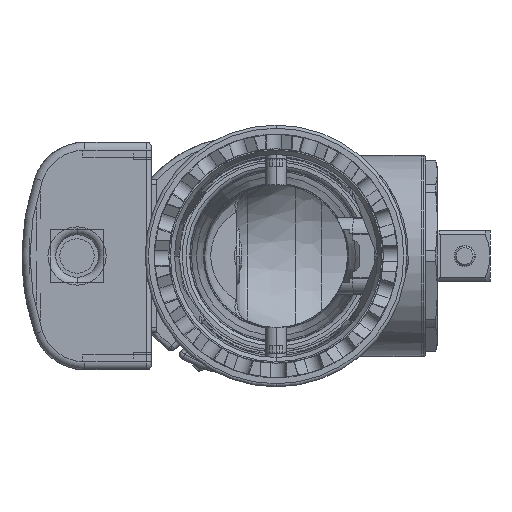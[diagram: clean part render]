
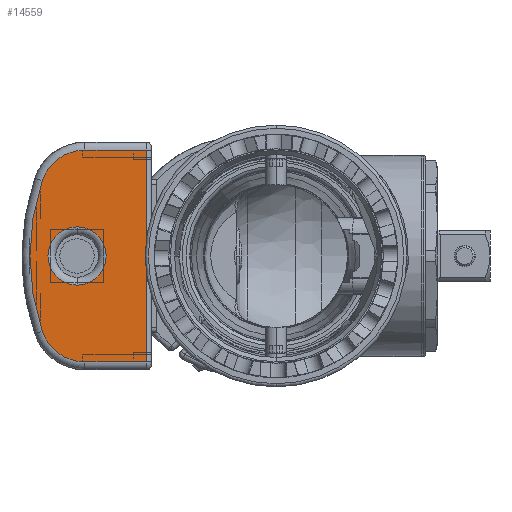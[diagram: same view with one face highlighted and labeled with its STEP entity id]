
A CAD part, left-side view. The second image highlights one B-rep face of the part: STEP entity #14559.
In plain terms, the highlighted planar face has unit normal (-1, 0, 0).
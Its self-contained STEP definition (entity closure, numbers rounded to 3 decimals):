
#14233 = VERTEX_POINT ( 'NONE', #53904 ) ;
#14332 = EDGE_CURVE ( 'NONE', #14334, #14233, #54259, .T. ) ;
#14334 = VERTEX_POINT ( 'NONE', #54377 ) ;
#14369 = VERTEX_POINT ( 'NONE', #54554 ) ;
#14378 = VERTEX_POINT ( 'NONE', #54523 ) ;
#14433 = EDGE_LOOP ( 'NONE', ( #14434, #14435 ) ) ;
#14434 = ORIENTED_EDGE ( 'NONE', *, *, #14332, .T. ) ;
#14435 = ORIENTED_EDGE ( 'NONE', *, *, #14558, .T. ) ;
#14436 = EDGE_LOOP ( 'NONE', ( #14534, #14535, #14538, #14540, #14541, #14542 ) ) ;
#14444 = VERTEX_POINT ( 'NONE', #55066 ) ;
#14447 = EDGE_CURVE ( 'NONE', #14478, #14444, #55059, .T. ) ;
#14455 = EDGE_CURVE ( 'NONE', #14487, #14369, #55123, .T. ) ;
#14478 = VERTEX_POINT ( 'NONE', #55155 ) ;
#14482 = EDGE_CURVE ( 'NONE', #14369, #14478, #55150, .T. ) ;
#14487 = VERTEX_POINT ( 'NONE', #55145 ) ;
#14489 = EDGE_CURVE ( 'NONE', #14378, #14487, #55252, .T. ) ;
#14534 = ORIENTED_EDGE ( 'NONE', *, *, #14447, .T. ) ;
#14535 = ORIENTED_EDGE ( 'NONE', *, *, #14536, .T. ) ;
#14536 = EDGE_CURVE ( 'NONE', #14444, #14537, #55328, .T. ) ;
#14537 = VERTEX_POINT ( 'NONE', #55314 ) ;
#14538 = ORIENTED_EDGE ( 'NONE', *, *, #14539, .T. ) ;
#14539 = EDGE_CURVE ( 'NONE', #14537, #14378, #55402, .T. ) ;
#14540 = ORIENTED_EDGE ( 'NONE', *, *, #14489, .T. ) ;
#14541 = ORIENTED_EDGE ( 'NONE', *, *, #14455, .T. ) ;
#14542 = ORIENTED_EDGE ( 'NONE', *, *, #14482, .T. ) ;
#14558 = EDGE_CURVE ( 'NONE', #14233, #14334, #55444, .T. ) ;
#14559 = ADVANCED_FACE ( 'NONE', ( #55439, #55438 ), #55413, .F. ) ;
#53904 = CARTESIAN_POINT ( 'NONE',  ( -192.61, 37.6, 5.5 ) ) ;
#54259 = CIRCLE ( 'NONE', #54383, 5.5 ) ;
#54377 = CARTESIAN_POINT ( 'NONE',  ( -192.61, 37.6, -5.5 ) ) ;
#54379 = DIRECTION ( 'NONE',  ( 0., 0., -1. ) ) ;
#54381 = DIRECTION ( 'NONE',  ( 1., 0., 0. ) ) ;
#54382 = CARTESIAN_POINT ( 'NONE',  ( -192.61, 37.6, 0. ) ) ;
#54383 = AXIS2_PLACEMENT_3D ( 'NONE', #54382, #54381, #54379 ) ;
#54523 = CARTESIAN_POINT ( 'NONE',  ( -192.61, 24.5, 20. ) ) ;
#54554 = CARTESIAN_POINT ( 'NONE',  ( -192.61, 44.168, 14.215 ) ) ;
#55052 = DIRECTION ( 'NONE',  ( 0., 0., -1. ) ) ;
#55054 = DIRECTION ( 'NONE',  ( -1., 0., 0. ) ) ;
#55055 = CARTESIAN_POINT ( 'NONE',  ( -192.61, 36.114, -11.5 ) ) ;
#55057 = AXIS2_PLACEMENT_3D ( 'NONE', #55055, #55054, #55052 ) ;
#55059 = CIRCLE ( 'NONE', #55057, 8.5 ) ;
#55066 = CARTESIAN_POINT ( 'NONE',  ( -192.61, 36.114, -20. ) ) ;
#55110 = DIRECTION ( 'NONE',  ( 0., 0., -1. ) ) ;
#55111 = DIRECTION ( 'NONE',  ( -1., 0., 0. ) ) ;
#55113 = CARTESIAN_POINT ( 'NONE',  ( -192.61, 36.114, 11.5 ) ) ;
#55114 = AXIS2_PLACEMENT_3D ( 'NONE', #55113, #55111, #55110 ) ;
#55123 = CIRCLE ( 'NONE', #55114, 8.5 ) ;
#55145 = CARTESIAN_POINT ( 'NONE',  ( -192.61, 36.114, 20. ) ) ;
#55146 = DIRECTION ( 'NONE',  ( 0., 0., -1. ) ) ;
#55147 = DIRECTION ( 'NONE',  ( -1., 0., 0. ) ) ;
#55148 = CARTESIAN_POINT ( 'NONE',  ( -192.61, 2., 0. ) ) ;
#55149 = AXIS2_PLACEMENT_3D ( 'NONE', #55148, #55147, #55146 ) ;
#55150 = CIRCLE ( 'NONE', #55149, 44.5 ) ;
#55155 = CARTESIAN_POINT ( 'NONE',  ( -192.61, 44.168, -14.215 ) ) ;
#55248 = DIRECTION ( 'NONE',  ( 0., 1., 0. ) ) ;
#55249 = VECTOR ( 'NONE', #55248, 1000. ) ;
#55250 = CARTESIAN_POINT ( 'NONE',  ( -192.61, 23.5, 20. ) ) ;
#55252 = LINE ( 'NONE', #55250, #55249 ) ;
#55314 = CARTESIAN_POINT ( 'NONE',  ( -192.61, 24.5, -20. ) ) ;
#55315 = DIRECTION ( 'NONE',  ( 0., -1., 0. ) ) ;
#55316 = VECTOR ( 'NONE', #55315, 1000. ) ;
#55318 = CARTESIAN_POINT ( 'NONE',  ( -192.61, 24.5, -20. ) ) ;
#55328 = LINE ( 'NONE', #55318, #55316 ) ;
#55397 = DIRECTION ( 'NONE',  ( 0., 0., 1. ) ) ;
#55399 = VECTOR ( 'NONE', #55397, 1000. ) ;
#55400 = CARTESIAN_POINT ( 'NONE',  ( -192.61, 24.5, -21.5 ) ) ;
#55402 = LINE ( 'NONE', #55400, #55399 ) ;
#55411 = CARTESIAN_POINT ( 'NONE',  ( -192.61, 23.5, -21.5 ) ) ;
#55412 = AXIS2_PLACEMENT_3D ( 'NONE', #55411, #55520, #55518 ) ;
#55413 = PLANE ( 'NONE',  #55412 ) ;
#55438 = FACE_OUTER_BOUND ( 'NONE', #14436, .T. ) ;
#55439 = FACE_BOUND ( 'NONE', #14433, .T. ) ;
#55440 = DIRECTION ( 'NONE',  ( 0., 0., -1. ) ) ;
#55441 = DIRECTION ( 'NONE',  ( 1., 0., 0. ) ) ;
#55442 = CARTESIAN_POINT ( 'NONE',  ( -192.61, 37.6, 0. ) ) ;
#55443 = AXIS2_PLACEMENT_3D ( 'NONE', #55442, #55441, #55440 ) ;
#55444 = CIRCLE ( 'NONE', #55443, 5.5 ) ;
#55518 = DIRECTION ( 'NONE',  ( 0., 0., -1. ) ) ;
#55520 = DIRECTION ( 'NONE',  ( 1., 0., 0. ) ) ;
